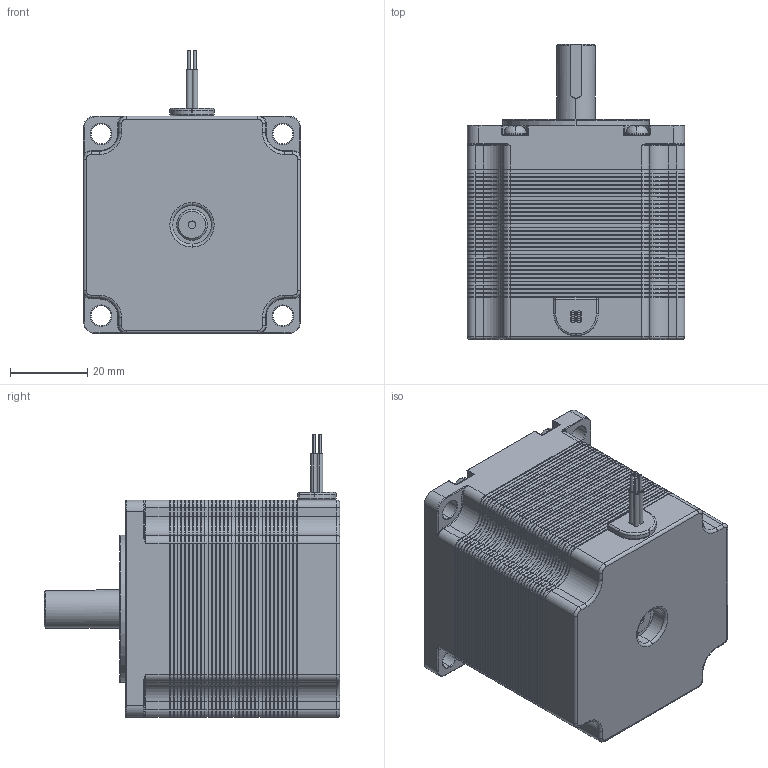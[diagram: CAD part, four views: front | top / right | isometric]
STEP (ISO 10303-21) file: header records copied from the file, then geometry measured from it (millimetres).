
FILE_DESCRIPTION (( 'STEP AP214' ), '1' );
FILE_NAME ('Nema 23 Stepper Motor length 56mm_10mm_key.STEP', '2020-11-11T14:36:33', ( 'Moofasta' ), ( '' ), 'SwSTEP 2.0', 'SolidWorks 2020', '' );
FILE_SCHEMA (( 'AUTOMOTIVE_DESIGN' ));
Length unit declared in the file: millimetre
Products named in the file (1): Nema 23 Stepper Motor length 56mm_10mm_key
Bounding box: 56.3 x 76.5 x 73.3 mm (x, y, z)
Volume: 162079.2 mm3; surface area: 213352.8 mm2
Topology: 49 solids, 49 shells, 2920 faces, 6645 edges, 3809 vertices
Faces by surface type: plane 1427, cone 820, cylinder 559, torus 94, sphere 12, bspline 8
Entity records: 108899 total; most frequent: DIRECTION 14458, CARTESIAN_POINT 13835, ORIENTED_EDGE 13250, EDGE_CURVE 6625, AXIS2_PLACEMENT_3D 4996, VECTOR 4466, LINE 4466, VERTEX_POINT 3809
